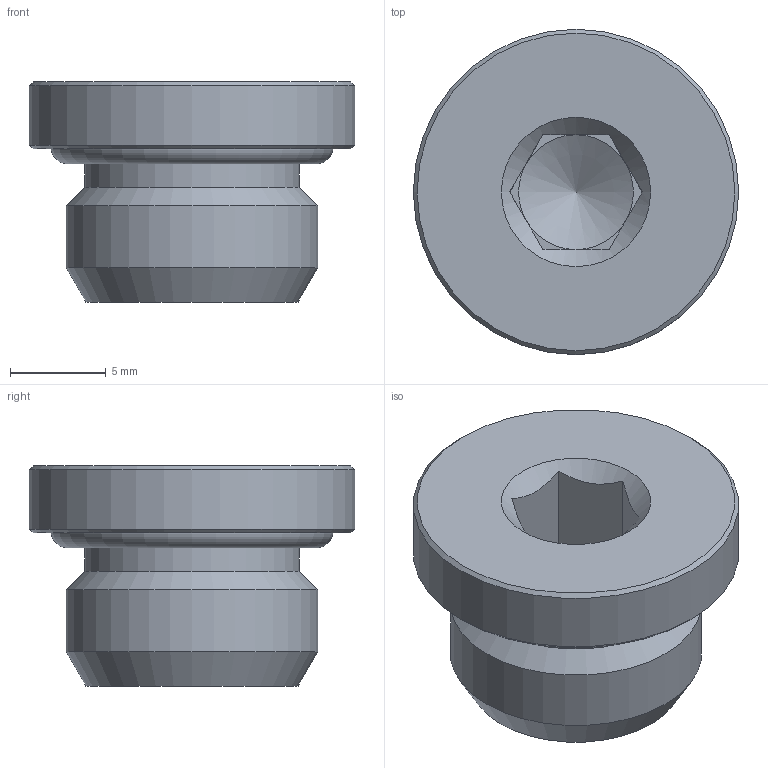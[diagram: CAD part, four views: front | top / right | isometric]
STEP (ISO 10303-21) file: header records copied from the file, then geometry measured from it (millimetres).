
FILE_DESCRIPTION(/* description */ (''),/* implementation_level */ '2;1');
FILE_NAME(/* name */ '30153_107OR_G14_21.09.16',/* time_stamp */ '2016-09-21T10:49:31+02:00',/* author */ (''),/* organization */ (''),/* preprocessor_version */ 'ST-DEVELOPER v16.5',/* originating_system */ 'HiCAD 2016 2101.0 Build 254',/* authorisation */ '');
FILE_SCHEMA (('AUTOMOTIVE_DESIGN { 1 0 10303 214 1 1 1 1 }'));
Length unit declared in the file: millimetre
Products named in the file (3): Root; 30153; OR 11.11X1.78
Assembly tree (2 placements, depth 2):
  Root
    30153
    OR 11.11X1.78
Bounding box: 17 x 17 x 11.5 mm (x, y, z)
Volume: 1513.7 mm3; surface area: 1402.8 mm2
Topology: 2 solids, 2 shells, 30 faces, 72 edges, 46 vertices
Faces by surface type: plane 16, cone 7, cylinder 4, torus 3
Full cylindrical faces by diameter (mm): 6 x1, 11.2 x1, 13.157 x1, 17 x1
Entity records: 1322 total; most frequent: DIRECTION 152, CARTESIAN_POINT 125, PRESENTATION_STYLE_ASSIGNMENT 104, COLOUR_RGB 104, DRAUGHTING_PRE_DEFINED_CURVE_FONT 102, CURVE_STYLE 102, OVER_RIDING_STYLED_ITEM 102, ORIENTED_EDGE 102
